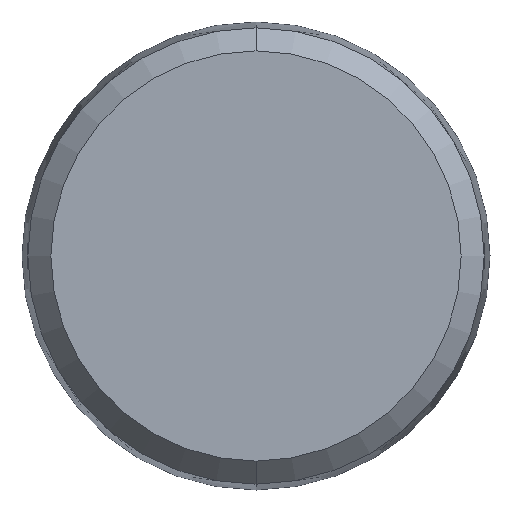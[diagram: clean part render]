
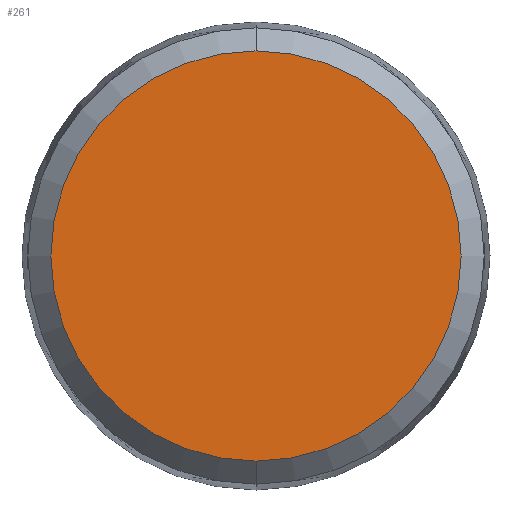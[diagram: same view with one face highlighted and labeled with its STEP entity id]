
A CAD part, front view. The second image highlights one B-rep face of the part: STEP entity #261.
In plain terms, the highlighted planar face has unit normal (0, -1, 0).
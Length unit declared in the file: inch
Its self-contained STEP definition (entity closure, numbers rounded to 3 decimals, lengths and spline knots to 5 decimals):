
#3 = DIRECTION ( 'NONE',  ( 0., 0., 1. ) ) ;
#8 = AXIS2_PLACEMENT_3D ( 'NONE', #112, #447, #651 ) ;
#29 = VERTEX_POINT ( 'NONE', #200 ) ;
#112 = CARTESIAN_POINT ( 'NONE',  ( 0., -0.812, 0. ) ) ;
#142 = AXIS2_PLACEMENT_3D ( 'NONE', #273, #146, #260 ) ;
#145 = AXIS2_PLACEMENT_3D ( 'NONE', #429, #645, #3 ) ;
#146 = DIRECTION ( 'NONE',  ( 0., -1., 0. ) ) ;
#200 = CARTESIAN_POINT ( 'NONE',  ( 0., -0.812, 0.73415 ) ) ;
#220 = VERTEX_POINT ( 'NONE', #478 ) ;
#260 = DIRECTION ( 'NONE',  ( 0., 0., -1. ) ) ;
#261 = ADVANCED_FACE ( 'NONE', ( #652 ), #367, .T. ) ;
#273 = CARTESIAN_POINT ( 'NONE',  ( -0.73415, -0.812, 0. ) ) ;
#303 = ORIENTED_EDGE ( 'NONE', *, *, #351, .F. ) ;
#313 = CIRCLE ( 'NONE', #8, 0.73415 ) ;
#351 = EDGE_CURVE ( 'NONE', #220, #29, #679, .T. ) ;
#367 = PLANE ( 'NONE',  #142 ) ;
#428 = EDGE_LOOP ( 'NONE', ( #504, #303 ) ) ;
#429 = CARTESIAN_POINT ( 'NONE',  ( 0., -0.812, 0. ) ) ;
#447 = DIRECTION ( 'NONE',  ( 0., 1., 0. ) ) ;
#478 = CARTESIAN_POINT ( 'NONE',  ( 0., -0.812, -0.73415 ) ) ;
#504 = ORIENTED_EDGE ( 'NONE', *, *, #609, .F. ) ;
#609 = EDGE_CURVE ( 'NONE', #29, #220, #313, .T. ) ;
#645 = DIRECTION ( 'NONE',  ( 0., 1., 0. ) ) ;
#651 = DIRECTION ( 'NONE',  ( 0., 0., 1. ) ) ;
#652 = FACE_OUTER_BOUND ( 'NONE', #428, .T. ) ;
#679 = CIRCLE ( 'NONE', #145, 0.73415 ) ;
